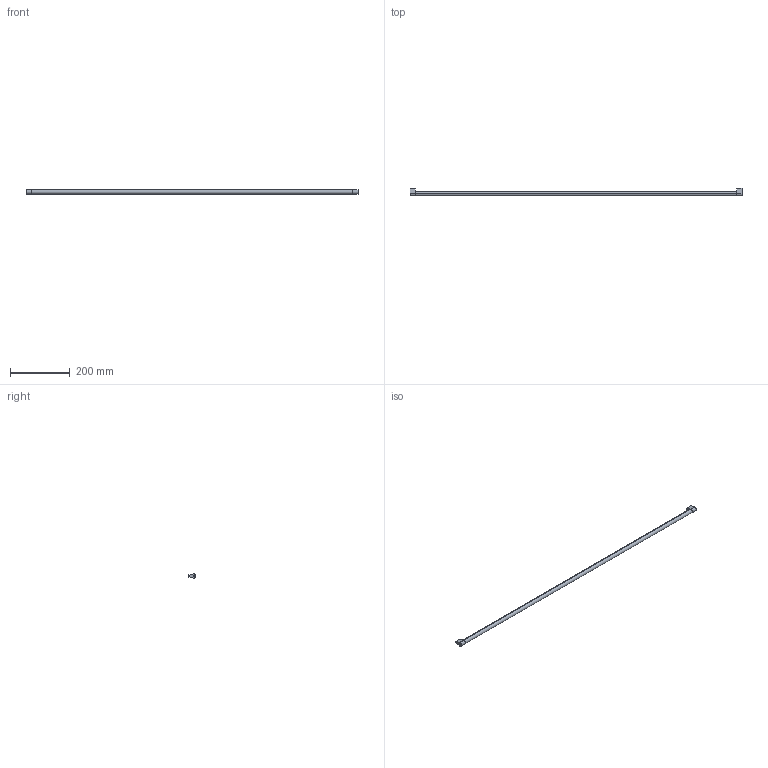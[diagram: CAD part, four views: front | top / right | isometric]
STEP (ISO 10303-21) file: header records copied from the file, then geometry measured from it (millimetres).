
FILE_DESCRIPTION (( 'STEP AP214' ), '1' );
FILE_NAME ('_Synchronisationseinheit DWD XP KAB1200_S16.step', '2010-07-08T13:58:21', ( 'grass' ), ( '' ), 'SwSTEP 2.0', 'SolidWorks 2010', '' );
FILE_SCHEMA (( 'AUTOMOTIVE_DESIGN' ));
Length unit declared in the file: millimetre
Products named in the file (1): _Synchronisationseinheit DWD XP KAB1200_S16
Bounding box: 1107 x 26.5 x 14 mm (x, y, z)
Volume: 174096.2 mm3; surface area: 51535.4 mm2
Topology: 3 solids, 3 shells, 36 faces, 78 edges, 52 vertices
Faces by surface type: cylinder 18, plane 18
Entity records: 1050 total; most frequent: DIRECTION 188, CARTESIAN_POINT 167, ORIENTED_EDGE 156, EDGE_CURVE 78, AXIS2_PLACEMENT_3D 73, VERTEX_POINT 52, VECTOR 42, LINE 42
